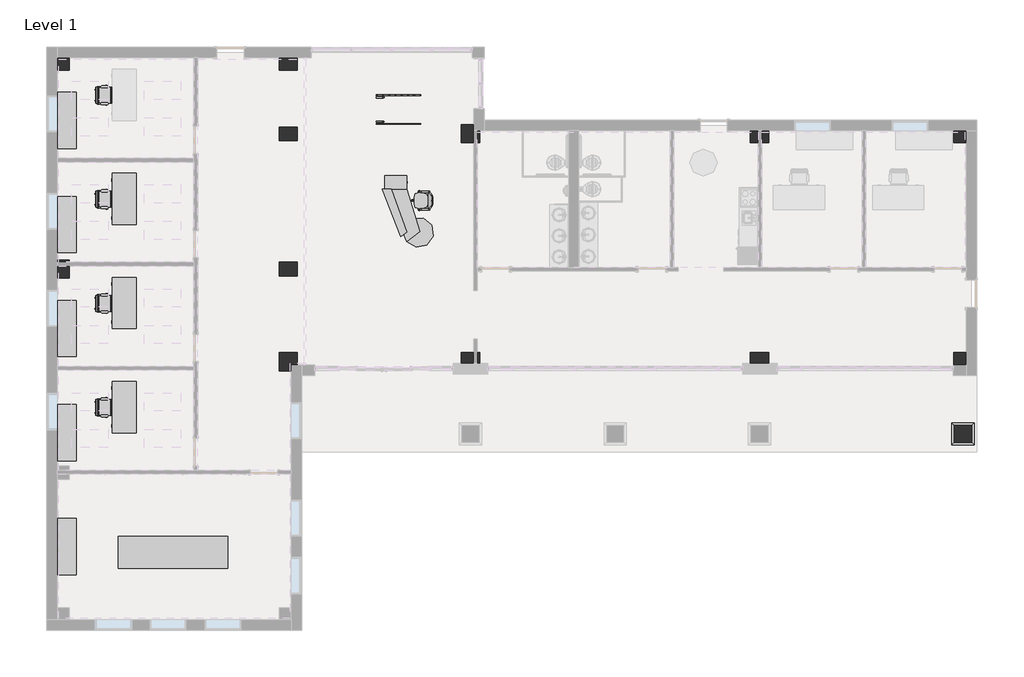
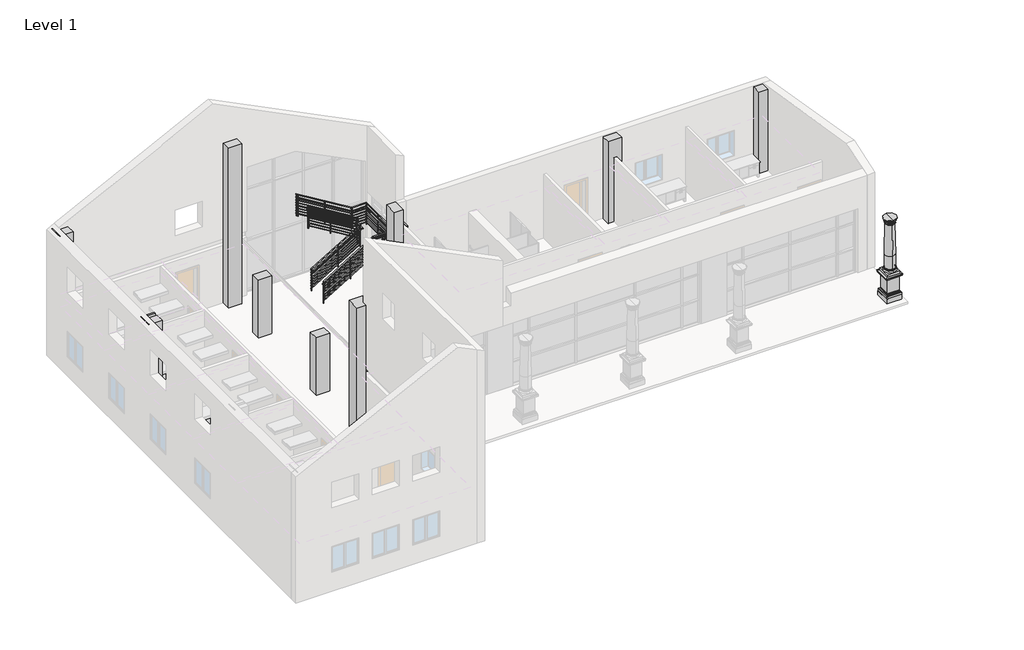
# One storey, part 7 of 8: 15 furniture elements, 13 columns, 2 railings.
"""IFC4 building model written with IfcOpenShell, lengths in millimetres."""

from ifc_helpers import new_model, si_unit, point, frame, origin, origin_with_axes, place, context, project, spatial, polyline, circle_curve, ellipse_curve, trimmed, outline, extrude, faceted_brep, transform, mapped, element, save
from ifc_brep_helpers import plane_surface, cylinder_surface, revolved_surface, advanced_brep
from components import chair_executive_chair_executive_8d69e98c, chair_task_arms_chair_task_arms_8395c10b, conference_table_complete_42_x_144_00e9c4b6, furniture_5a5a5c8e, desk_reception_desk_reception_8679d896, furniture_9d33da18, guardrail_pipe_6950e72b, guardrail_pipe_1aecc964

model = new_model("IFC4")

# Units and contexts
model_context = context("Model", 3, world=origin())
ifc_project = project(units=[si_unit("LENGTHUNIT", "METRE", prefix="MILLI")], contexts=[model_context])

# Site, building, storey
site = spatial("IfcSite", under=ifc_project)
building = spatial("IfcBuilding", under=site)
storey = spatial("IfcBuildingStorey", under=building, Name="Level 1", Elevation=0.0)

# Columns
placement = place(None, origin())
element("IfcColumn", 1, ObjectType="Doric Column : 16'  Height (10 2/3 x Dia.)", at=placement, inside=storey, context=model_context, shape_type="SolidModel", body=[
    extrude(outline(polyline([(16988.3733448, -1720.0769576), (16988.3733448, -2297.9269576), (16410.5233448, -2297.9269576), (16410.5233448, -1720.0769576), (16988.3733448, -1720.0769576)])), frame((0.0, 0.0, 1117.6), z_axis=(0.0, 0.0, 1.0), x_axis=(1.0, 0.0, 0.0)), (0.0, 0.0, 1.0), 107.95),
    faceted_brep([(16470.8483448, -2237.6019576, 1117.6), (16327.9733448, -2380.4769576, 1117.6), (17070.9233448, -2380.4769576, 1117.6), (16928.0483448, -2237.6019576, 1117.6), (16470.8483448, -2237.6019576, 1003.3), (16928.0483448, -2237.6019576, 1003.3), (16399.5654277, -2308.8848746, 1003.3), (16999.3312619, -2308.8848746, 1003.3), (16366.0733448, -2342.3769576, 1028.7), (17032.8233448, -2342.3769576, 1028.7), (16340.6733448, -2367.7769576, 1028.7), (17058.2233448, -2367.7769576, 1028.7), (16340.6733448, -2367.7769576, 1092.2), (17058.2233448, -2367.7769576, 1092.2), (16327.9733448, -2380.4769576, 1092.2), (17070.9233448, -2380.4769576, 1092.2), (17070.9233448, -1637.5269576, 1117.6), (16928.0483448, -1780.4019576, 1117.6), (16928.0483448, -1780.4019576, 1003.3), (16999.3312619, -1709.1190405, 1003.3), (17032.8233448, -1675.6269576, 1028.7), (17058.2233448, -1650.2269576, 1028.7), (17058.2233448, -1650.2269576, 1092.2), (17070.9233448, -1637.5269576, 1092.2), (16327.9733448, -1637.5269576, 1117.6), (16470.8483448, -1780.4019576, 1117.6), (16470.8483448, -1780.4019576, 1003.3), (16399.5654277, -1709.1190405, 1003.3), (16366.0733448, -1675.6269576, 1028.7), (16340.6733448, -1650.2269576, 1028.7), (16340.6733448, -1650.2269576, 1092.2), (16327.9733448, -1637.5269576, 1092.2)], [[[0, 1, 2, 3]], [[4, 0, 3, 5]], [[6, 4, 5, 7]], [[8, 6, 7, 9]], [[10, 8, 9, 11]], [[12, 10, 11, 13]], [[14, 12, 13, 15]], [[1, 14, 15, 2]], [[3, 2, 16, 17]], [[5, 3, 17, 18]], [[7, 5, 18, 19]], [[9, 7, 19, 20]], [[11, 9, 20, 21]], [[13, 11, 21, 22]], [[15, 13, 22, 23]], [[2, 15, 23, 16]], [[17, 16, 24, 25]], [[18, 17, 25, 26]], [[19, 18, 26, 27]], [[20, 19, 27, 28]], [[21, 20, 28, 29]], [[22, 21, 29, 30]], [[23, 22, 30, 31]], [[16, 23, 31, 24]], [[25, 24, 1, 0]], [[26, 25, 0, 4]], [[27, 26, 4, 6]], [[28, 27, 6, 8]], [[29, 28, 8, 10]], [[30, 29, 10, 12]], [[31, 30, 12, 14]], [[24, 31, 14, 1]]]),
    advanced_brep(
    [(16699.4483448, -2256.6519576, 1358.9), (16699.4483448, -1761.3519576, 1358.9), (16699.4483448, -1780.4019576, 1377.95), (16699.4483448, -2237.6019576, 1377.95), (16699.4483448, -1780.4019576, 1989.5041667), (16699.4483448, -2237.6019576, 1989.5041667), (16699.4483448, -2256.6519576, 1339.85), (16699.4483448, -1761.3519576, 1339.85), (16699.4483448, -2256.6519576, 1308.1), (16699.4483448, -1761.3519576, 1308.1), (16699.4483448, -2256.6519576, 1225.55), (16699.4483448, -1761.3519576, 1225.55), (16699.4483448, -2009.0019576, 1225.55), (16699.4483448, -1808.9769576, 3479.3125), (16699.4483448, -2209.0269576, 3479.3125), (16699.4483448, -2301.1019576, 3714.2625601), (16699.4483448, -1716.9019576, 3714.2625601), (16699.4483448, -1716.9019576, 3733.3125), (16699.4483448, -2301.1019576, 3733.3125), (16699.4483448, -2009.0019576, 3733.3125), (16699.4483448, -2282.0518974, 3695.2125), (16699.4483448, -1735.9520177, 3695.2125), (16699.4483448, -2278.8769576, 3695.2125), (16699.4483448, -1739.1269576, 3695.2125), (16699.4483448, -2278.8769576, 3644.4125), (16699.4483448, -1739.1269576, 3644.4125), (16699.4483448, -2272.5269576, 3644.4125), (16699.4483448, -1745.4769576, 3644.4125), (16699.4483448, -2228.0769576, 3599.9625), (16699.4483448, -1789.9269576, 3599.9625), (16699.4483448, -2228.0769576, 3580.9125), (16699.4483448, -1789.9269576, 3580.9125), (16699.4483448, -2209.0269576, 3580.9125), (16699.4483448, -1808.9769576, 3580.9125), (16699.4483448, -2209.0269576, 3498.3625), (16699.4483448, -1808.9769576, 3498.3625), (16699.4483448, -2228.0769576, 3498.3625), (16699.4483448, -1789.9269576, 3498.3625), (16699.4483448, -2228.0769576, 3479.3125), (16699.4483448, -1789.9269576, 3479.3125)],
    [
        (0, 1, circle_curve(frame((16699.4483448, -2009.0019576, 1358.9), z_axis=(0.0, 0.0, 1.0), x_axis=(0.0, 1.0, 0.0)), 247.65)),
        (1, 2, circle_curve(frame((16699.4483448, -1761.3519576, 1377.95), z_axis=(-1.0, 0.0, 0.0), x_axis=(0.0, -1.0, 0.0)), 19.05)),
        (2, 3, circle_curve(frame((16699.4483448, -2009.0019576, 1377.95), z_axis=(0.0, 0.0, -1.0), x_axis=(0.0, 1.0, 0.0)), 228.6)),
        (3, 0, circle_curve(frame((16699.4483448, -2256.6519576, 1377.95), z_axis=(-1.0, 0.0, 0.0), x_axis=(0.0, 1.0, 0.0)), 19.05)),
        (2, 4),
        (4, 5, circle_curve(frame((16699.4483448, -2009.0019576, 1989.5041667), z_axis=(0.0, 0.0, -1.0), x_axis=(0.0, 1.0, 0.0)), 228.6)),
        (5, 3),
        (2, 3, circle_curve(frame((16699.4483448, -2009.0019576, 1377.95), z_axis=(0.0, 0.0, 1.0), x_axis=(0.0, 1.0, 0.0)), 228.6)),
        (5, 4, circle_curve(frame((16699.4483448, -2009.0019576, 1989.5041667), z_axis=(0.0, 0.0, -1.0), x_axis=(0.0, 1.0, 0.0)), 228.6)),
        (1, 0, circle_curve(frame((16699.4483448, -2009.0019576, 1358.9), z_axis=(0.0, 0.0, 1.0), x_axis=(0.0, 1.0, 0.0)), 247.65)),
        (6, 7, circle_curve(frame((16699.4483448, -2009.0019576, 1339.85), z_axis=(0.0, 0.0, 1.0), x_axis=(0.0, 1.0, 0.0)), 247.65)),
        (7, 1),
        (0, 6),
        (7, 6, circle_curve(frame((16699.4483448, -2009.0019576, 1339.85), z_axis=(0.0, 0.0, 1.0), x_axis=(0.0, 1.0, 0.0)), 247.65)),
        (8, 9, circle_curve(frame((16699.4483448, -2009.0019576, 1308.1), z_axis=(0.0, 0.0, 1.0), x_axis=(0.0, 1.0, 0.0)), 247.65)),
        (9, 7, circle_curve(frame((16699.4483448, -1761.3519576, 1323.975), z_axis=(1.0, 0.0, 0.0), x_axis=(0.0, -1.0, 0.0)), 15.875)),
        (6, 8, circle_curve(frame((16699.4483448, -2256.6519576, 1323.975), z_axis=(1.0, 0.0, 0.0), x_axis=(0.0, 1.0, 0.0)), 15.875)),
        (9, 8, circle_curve(frame((16699.4483448, -2009.0019576, 1308.1), z_axis=(0.0, 0.0, 1.0), x_axis=(0.0, 1.0, 0.0)), 247.65)),
        (10, 11, circle_curve(frame((16699.4483448, -2009.0019576, 1225.55), z_axis=(0.0, 0.0, 1.0), x_axis=(0.0, 1.0, 0.0)), 247.65)),
        (11, 9, circle_curve(frame((16699.4483448, -1761.3519576, 1266.825), z_axis=(1.0, 0.0, 0.0), x_axis=(0.0, -1.0, 0.0)), 41.275)),
        (8, 10, circle_curve(frame((16699.4483448, -2256.6519576, 1266.825), z_axis=(1.0, 0.0, 0.0), x_axis=(0.0, 1.0, 0.0)), 41.275)),
        (11, 10, circle_curve(frame((16699.4483448, -2009.0019576, 1225.55), z_axis=(0.0, 0.0, 1.0), x_axis=(0.0, 1.0, 0.0)), 247.65)),
        (12, 11),
        (10, 12),
        (4, 13),
        (13, 14, circle_curve(frame((16699.4483448, -2009.0019576, 3479.3125), z_axis=(0.0, 0.0, -1.0), x_axis=(0.0, 1.0, 0.0)), 200.025)),
        (14, 5),
        (14, 13, circle_curve(frame((16699.4483448, -2009.0019576, 3479.3125), z_axis=(0.0, 0.0, -1.0), x_axis=(0.0, 1.0, 0.0)), 200.025)),
        (15, 16, circle_curve(frame((16699.4483448, -2009.0019576, 3714.2625601), z_axis=(0.0, 0.0, 1.0), x_axis=(0.0, 1.0, 0.0)), 292.1)),
        (16, 17),
        (17, 18, circle_curve(frame((16699.4483448, -2009.0019576, 3733.3125), z_axis=(0.0, 0.0, -1.0), x_axis=(0.0, 1.0, 0.0)), 292.1)),
        (18, 15),
        (17, 19),
        (19, 18),
        (17, 18, circle_curve(frame((16699.4483448, -2009.0019576, 3733.3125), z_axis=(0.0, 0.0, 1.0), x_axis=(0.0, 1.0, 0.0)), 292.1)),
        (16, 15, circle_curve(frame((16699.4483448, -2009.0019576, 3714.2625601), z_axis=(0.0, 0.0, 1.0), x_axis=(0.0, 1.0, 0.0)), 292.1)),
        (20, 21, circle_curve(frame((16699.4483448, -2009.0019576, 3695.2125), z_axis=(0.0, 0.0, 1.0), x_axis=(0.0, 1.0, 0.0)), 273.0499399)),
        (21, 16, circle_curve(frame((16699.4483448, -1716.9019576, 3695.2125), z_axis=(-1.0, 0.0, 0.0), x_axis=(0.0, -1.0, 0.0)), 19.0500601)),
        (15, 20, circle_curve(frame((16699.4483448, -2301.1019576, 3695.2125), z_axis=(-1.0, 0.0, 0.0), x_axis=(0.0, 1.0, 0.0)), 19.0500601)),
        (21, 20, circle_curve(frame((16699.4483448, -2009.0019576, 3695.2125), z_axis=(0.0, 0.0, 1.0), x_axis=(0.0, 1.0, 0.0)), 273.0499399)),
        (22, 23, circle_curve(frame((16699.4483448, -2009.0019576, 3695.2125), z_axis=(0.0, 0.0, 1.0), x_axis=(0.0, 1.0, 0.0)), 269.875)),
        (23, 21),
        (20, 22),
        (23, 22, circle_curve(frame((16699.4483448, -2009.0019576, 3695.2125), z_axis=(0.0, 0.0, 1.0), x_axis=(0.0, 1.0, 0.0)), 269.875)),
        (24, 25, circle_curve(frame((16699.4483448, -2009.0019576, 3644.4125), z_axis=(0.0, 0.0, 1.0), x_axis=(0.0, 1.0, 0.0)), 269.875)),
        (25, 23),
        (22, 24),
        (25, 24, circle_curve(frame((16699.4483448, -2009.0019576, 3644.4125), z_axis=(0.0, 0.0, 1.0), x_axis=(0.0, 1.0, 0.0)), 269.875)),
        (26, 27, circle_curve(frame((16699.4483448, -2009.0019576, 3644.4125), z_axis=(0.0, 0.0, 1.0), x_axis=(0.0, 1.0, 0.0)), 263.525)),
        (27, 25),
        (24, 26),
        (27, 26, circle_curve(frame((16699.4483448, -2009.0019576, 3644.4125), z_axis=(0.0, 0.0, 1.0), x_axis=(0.0, 1.0, 0.0)), 263.525)),
        (28, 29, circle_curve(frame((16699.4483448, -2009.0019576, 3599.9625), z_axis=(0.0, 0.0, 1.0), x_axis=(0.0, 1.0, 0.0)), 219.075)),
        (29, 27, circle_curve(frame((16699.4483448, -1789.9269576, 3644.4125), z_axis=(1.0, 0.0, 0.0), x_axis=(0.0, -1.0, 0.0)), 44.45)),
        (26, 28, circle_curve(frame((16699.4483448, -2228.0769576, 3644.4125), z_axis=(1.0, 0.0, 0.0), x_axis=(0.0, 1.0, 0.0)), 44.45)),
        (29, 28, circle_curve(frame((16699.4483448, -2009.0019576, 3599.9625), z_axis=(0.0, 0.0, 1.0), x_axis=(0.0, 1.0, 0.0)), 219.075)),
        (30, 31, circle_curve(frame((16699.4483448, -2009.0019576, 3580.9125), z_axis=(0.0, 0.0, 1.0), x_axis=(0.0, 1.0, 0.0)), 219.075)),
        (31, 29, circle_curve(frame((16699.4483448, -1789.9269576, 3590.4375), z_axis=(1.0, 0.0, 0.0), x_axis=(0.0, -1.0, 0.0)), 9.525)),
        (28, 30, circle_curve(frame((16699.4483448, -2228.0769576, 3590.4375), z_axis=(1.0, 0.0, 0.0), x_axis=(0.0, 1.0, 0.0)), 9.525)),
        (31, 30, circle_curve(frame((16699.4483448, -2009.0019576, 3580.9125), z_axis=(0.0, 0.0, 1.0), x_axis=(0.0, 1.0, 0.0)), 219.075)),
        (32, 33, circle_curve(frame((16699.4483448, -2009.0019576, 3580.9125), z_axis=(0.0, 0.0, 1.0), x_axis=(0.0, 1.0, 0.0)), 200.025)),
        (33, 31),
        (30, 32),
        (33, 32, circle_curve(frame((16699.4483448, -2009.0019576, 3580.9125), z_axis=(0.0, 0.0, 1.0), x_axis=(0.0, 1.0, 0.0)), 200.025)),
        (34, 35, circle_curve(frame((16699.4483448, -2009.0019576, 3498.3625), z_axis=(0.0, 0.0, 1.0), x_axis=(0.0, 1.0, 0.0)), 200.025)),
        (35, 33),
        (32, 34),
        (35, 34, circle_curve(frame((16699.4483448, -2009.0019576, 3498.3625), z_axis=(0.0, 0.0, 1.0), x_axis=(0.0, 1.0, 0.0)), 200.025)),
        (36, 37, circle_curve(frame((16699.4483448, -2009.0019576, 3498.3625), z_axis=(0.0, 0.0, 1.0), x_axis=(0.0, 1.0, 0.0)), 219.075)),
        (37, 35),
        (34, 36),
        (37, 36, circle_curve(frame((16699.4483448, -2009.0019576, 3498.3625), z_axis=(0.0, 0.0, 1.0), x_axis=(0.0, 1.0, 0.0)), 219.075)),
        (38, 39, circle_curve(frame((16699.4483448, -2009.0019576, 3479.3125), z_axis=(0.0, 0.0, 1.0), x_axis=(0.0, 1.0, 0.0)), 219.075)),
        (39, 37, circle_curve(frame((16699.4483448, -1789.9269576, 3488.8375), z_axis=(1.0, 0.0, 0.0), x_axis=(0.0, -1.0, 0.0)), 9.525)),
        (36, 38, circle_curve(frame((16699.4483448, -2228.0769576, 3488.8375), z_axis=(1.0, 0.0, 0.0), x_axis=(0.0, 1.0, 0.0)), 9.525)),
        (39, 38, circle_curve(frame((16699.4483448, -2009.0019576, 3479.3125), z_axis=(0.0, 0.0, 1.0), x_axis=(0.0, 1.0, 0.0)), 219.075)),
        (13, 39),
        (38, 14),
    ],
    [
        revolved_surface(trimmed(ellipse_curve(frame((16699.4483448, -1761.3519576, 1377.95), z_axis=(1.0, 0.0, 0.0), x_axis=(0.0, -1.0, 0.0)), 19.05, 19.05), [point((16699.4483448, -1780.4019576, 1377.95))], [point((16699.4483448, -1761.3519576, 1358.9))], True, "CARTESIAN"), (16699.4483448, -2009.0019576, 3733.3125), (0.0, 0.0, -1.0)),
        cylinder_surface(frame((16699.4483448, -2009.0019576, 3733.3125), z_axis=(0.0, 0.0, -1.0), x_axis=(0.0, 1.0, 0.0)), 228.6),
        cylinder_surface(frame((16699.4483448, -2009.0019576, 3733.3125), z_axis=(0.0, 0.0, -1.0), x_axis=(0.0, 1.0, 0.0)), 247.65),
        revolved_surface(trimmed(ellipse_curve(frame((16699.4483448, -1761.3519576, 1323.975), z_axis=(-1.0, 0.0, 0.0), x_axis=(0.0, -1.0, 0.0)), 15.875, 15.875), [point((16699.4483448, -1761.3519576, 1339.85))], [point((16699.4483448, -1761.3519576, 1308.1))], True, "CARTESIAN"), (16699.4483448, -2009.0019576, 3733.3125), (0.0, 0.0, -1.0)),
        revolved_surface(trimmed(ellipse_curve(frame((16699.4483448, -1761.3519576, 1266.825), z_axis=(-1.0, 0.0, 0.0), x_axis=(0.0, -1.0, 0.0)), 41.275, 41.275), [point((16699.4483448, -1761.3519576, 1308.1))], [point((16699.4483448, -1761.3519576, 1225.55))], True, "CARTESIAN"), (16699.4483448, -2009.0019576, 3733.3125), (0.0, 0.0, -1.0)),
        plane_surface(frame((16699.4483448, -2009.0019576, 1225.55), z_axis=(0.0, 0.0, -1.0), x_axis=(0.0, 1.0, 0.0))),
        revolved_surface(polyline([(16699.4483448, -1808.9769576, 3479.3125), (16699.4483448, -1780.4019576, 1989.5041667)]), (16699.4483448, -2009.0019576, 3733.3125), (0.0, 0.0, -1.0)),
        cylinder_surface(frame((16699.4483448, -2009.0019576, 3733.3125), z_axis=(0.0, 0.0, -1.0), x_axis=(0.0, 1.0, 0.0)), 292.1),
        plane_surface(frame((16699.4483448, -2009.0019576, 3733.3125), z_axis=(0.0, 0.0, 1.0), x_axis=(0.0, 1.0, 0.0))),
        revolved_surface(trimmed(ellipse_curve(frame((16699.4483448, -1716.9019576, 3695.2125), z_axis=(1.0, 0.0, 0.0), x_axis=(0.0, -1.0, 0.0)), 19.0500601, 19.0500601), [point((16699.4483448, -1716.9019576, 3714.2625601))], [point((16699.4483448, -1735.9520177, 3695.2125))], True, "CARTESIAN"), (16699.4483448, -2009.0019576, 3733.3125), (0.0, 0.0, -1.0)),
        plane_surface(frame((16699.4483448, -2009.0019576, 3695.2125), z_axis=(0.0, 0.0, -1.0), x_axis=(0.0, 1.0, 0.0))),
        cylinder_surface(frame((16699.4483448, -2009.0019576, 3733.3125), z_axis=(0.0, 0.0, -1.0), x_axis=(0.0, 1.0, 0.0)), 269.875),
        plane_surface(frame((16699.4483448, -2009.0019576, 3644.4125), z_axis=(0.0, 0.0, -1.0), x_axis=(0.0, 1.0, 0.0))),
        revolved_surface(trimmed(ellipse_curve(frame((16699.4483448, -1789.9269576, 3644.4125), z_axis=(-1.0, 0.0, 0.0), x_axis=(0.0, -1.0, 0.0)), 44.45, 44.45), [point((16699.4483448, -1745.4769576, 3644.4125))], [point((16699.4483448, -1789.9269576, 3599.9625))], True, "CARTESIAN"), (16699.4483448, -2009.0019576, 3733.3125), (0.0, 0.0, -1.0)),
        revolved_surface(trimmed(ellipse_curve(frame((16699.4483448, -1789.9269576, 3590.4375), z_axis=(-1.0, 0.0, 0.0), x_axis=(0.0, -1.0, 0.0)), 9.525, 9.525), [point((16699.4483448, -1789.9269576, 3599.9625))], [point((16699.4483448, -1789.9269576, 3580.9125))], True, "CARTESIAN"), (16699.4483448, -2009.0019576, 3733.3125), (0.0, 0.0, -1.0)),
        plane_surface(frame((16699.4483448, -2009.0019576, 3580.9125), z_axis=(0.0, 0.0, -1.0), x_axis=(0.0, 1.0, 0.0))),
        cylinder_surface(frame((16699.4483448, -2009.0019576, 3733.3125), z_axis=(0.0, 0.0, -1.0), x_axis=(0.0, 1.0, 0.0)), 200.025),
        plane_surface(frame((16699.4483448, -2009.0019576, 3498.3625), z_axis=(0.0, 0.0, 1.0), x_axis=(0.0, 1.0, 0.0))),
        revolved_surface(trimmed(ellipse_curve(frame((16699.4483448, -1789.9269576, 3488.8375), z_axis=(-1.0, 0.0, 0.0), x_axis=(0.0, -1.0, 0.0)), 9.525, 9.525), [point((16699.4483448, -1789.9269576, 3498.3625))], [point((16699.4483448, -1789.9269576, 3479.3125))], True, "CARTESIAN"), (16699.4483448, -2009.0019576, 3733.3125), (0.0, 0.0, -1.0)),
        plane_surface(frame((16699.4483448, -2009.0019576, 3479.3125), z_axis=(0.0, 0.0, -1.0), x_axis=(0.0, 1.0, 0.0))),
    ],
    [
        (0, [[1, 2, 3, 4]]),
        (1, [[-3, 5, 6, 7]]),
        (1, [[8, -7, 9, -5]]),
        (0, [[10, -4, -8, -2]]),
        (2, [[11, 12, -1, 13]]),
        (2, [[14, -13, -10, -12]]),
        (3, [[15, 16, -11, 17]]),
        (3, [[18, -17, -14, -16]]),
        (4, [[19, 20, -15, 21]]),
        (4, [[22, -21, -18, -20]]),
        (5, [[23, -19, 24]]),
        (5, [[-24, -22, -23]]),
        (6, [[-6, 25, 26, 27]]),
        (6, [[-9, -27, 28, -25]]),
        (7, [[29, 30, 31, 32]]),
        (8, [[-31, 33, 34]]),
        (8, [[35, -34, -33]]),
        (7, [[36, -32, -35, -30]]),
        (9, [[37, 38, -29, 39]]),
        (9, [[40, -39, -36, -38]]),
        (10, [[41, 42, -37, 43]]),
        (10, [[44, -43, -40, -42]]),
        (11, [[45, 46, -41, 47]]),
        (11, [[48, -47, -44, -46]]),
        (12, [[49, 50, -45, 51]]),
        (12, [[52, -51, -48, -50]]),
        (13, [[53, 54, -49, 55]]),
        (13, [[56, -55, -52, -54]]),
        (14, [[57, 58, -53, 59]]),
        (14, [[60, -59, -56, -58]]),
        (15, [[61, 62, -57, 63]]),
        (15, [[64, -63, -60, -62]]),
        (16, [[65, 66, -61, 67]]),
        (16, [[68, -67, -64, -66]]),
        (17, [[69, 70, -65, 71]]),
        (17, [[72, -71, -68, -70]]),
        (18, [[73, 74, -69, 75]]),
        (18, [[76, -75, -72, -74]]),
        (19, [[-26, 77, -73, 78]]),
        (19, [[-28, -78, -76, -77]]),
    ],
),
    advanced_brep(
    [(17044.8934911, -1663.5568112, -101.6), (17044.8934911, -1663.5568112, 127.0), (17044.8934911, -2354.4471039, 127.0), (17044.8934911, -2354.4471039, -101.6), (16928.0483448, -1780.4019576, -101.6), (16928.0483448, -2237.6019576, -101.6), (16928.0483448, -1780.4019576, 317.5), (16928.0483448, -2237.6019576, 317.5), (16962.3434911, -1746.1068112, 317.5), (16962.3434911, -2271.8971039, 317.5), (16981.3934911, -1727.0568112, 298.45), (16981.3934911, -2290.9471039, 298.45), (16981.3934911, -1727.0568112, 279.4), (16981.3934911, -2290.9471039, 279.4), (17003.6184911, -1704.8318112, 257.175), (17003.6184911, -2313.1721039, 257.175), (17025.8434911, -1682.6068112, 234.95), (17025.8434911, -2335.3971039, 234.95), (17025.8434911, -1682.6068112, 215.9), (17025.8434911, -2335.3971039, 215.9), (17035.3684911, -1673.0818112, 215.9), (17035.3684911, -2344.9221039, 215.9), (17035.3684911, -1673.0818112, 127.0), (17035.3684911, -2344.9221039, 127.0), (16354.0031985, -2354.4471039, 127.0), (16354.0031985, -2354.4471039, -101.6), (16470.8483448, -2237.6019576, -101.6), (16470.8483448, -2237.6019576, 317.5), (16436.5531985, -2271.8971039, 317.5), (16417.5031985, -2290.9471039, 298.45), (16417.5031985, -2290.9471039, 279.4), (16395.2781985, -2313.1721039, 257.175), (16373.0531985, -2335.3971039, 234.95), (16373.0531985, -2335.3971039, 215.9), (16363.5281985, -2344.9221039, 215.9), (16363.5281985, -2344.9221039, 127.0), (16354.0031985, -1663.5568112, 127.0), (16354.0031985, -1663.5568112, -101.6), (16470.8483448, -1780.4019576, -101.6), (16470.8483448, -1780.4019576, 317.5), (16436.5531985, -1746.1068112, 317.5), (16417.5031985, -1727.0568112, 298.45), (16417.5031985, -1727.0568112, 279.4), (16395.2781985, -1704.8318112, 257.175), (16373.0531985, -1682.6068112, 234.95), (16373.0531985, -1682.6068112, 215.9), (16363.5281985, -1673.0818112, 215.9), (16363.5281985, -1673.0818112, 127.0)],
    [
        (0, 1),
        (1, 2),
        (2, 3),
        (3, 0),
        (4, 0),
        (3, 5),
        (5, 4),
        (6, 4),
        (5, 7),
        (7, 6),
        (8, 6),
        (7, 9),
        (9, 8),
        (10, 8, ellipse_curve(frame((16981.3934911, -1727.0568112, 317.5), z_axis=(-0.7071067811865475, 0.7071067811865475, 0.0), x_axis=(-0.7071067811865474, -0.7071067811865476, 0.0)), 26.9407684, 19.05)),
        (9, 11, ellipse_curve(frame((16981.3934911, -2290.9471039, 317.5), z_axis=(-0.7071067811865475, -0.7071067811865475, 0.0), x_axis=(0.7071067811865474, -0.7071067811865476, 0.0)), 26.9407684, 19.05)),
        (11, 10),
        (12, 10),
        (11, 13),
        (13, 12),
        (14, 12, ellipse_curve(frame((16981.3934911, -1727.0568112, 257.175), z_axis=(0.7071067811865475, -0.7071067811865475, 0.0), x_axis=(0.7071067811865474, 0.7071067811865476, 0.0)), 31.4308964, 22.225)),
        (13, 15, ellipse_curve(frame((16981.3934911, -2290.9471039, 257.175), z_axis=(0.7071067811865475, 0.7071067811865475, 0.0), x_axis=(-0.7071067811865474, 0.7071067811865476, 0.0)), 31.4308964, 22.225)),
        (15, 14),
        (16, 14, ellipse_curve(frame((17025.8434911, -1682.6068112, 257.175), z_axis=(-0.7071067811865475, 0.7071067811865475, 0.0), x_axis=(-0.7071067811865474, -0.7071067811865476, 0.0)), 31.4308964, 22.225)),
        (15, 17, ellipse_curve(frame((17025.8434911, -2335.3971039, 257.175), z_axis=(-0.7071067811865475, -0.7071067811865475, 0.0), x_axis=(0.7071067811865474, -0.7071067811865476, 0.0)), 31.4308964, 22.225)),
        (17, 16),
        (18, 16),
        (17, 19),
        (19, 18),
        (20, 18),
        (19, 21),
        (21, 20),
        (22, 20),
        (21, 23),
        (23, 22),
        (1, 22),
        (23, 2),
        (2, 24),
        (24, 25),
        (25, 3),
        (25, 26),
        (26, 5),
        (26, 27),
        (27, 7),
        (27, 28),
        (28, 9),
        (28, 29, ellipse_curve(frame((16417.5031985, -2290.9471039, 317.5), z_axis=(-0.7071067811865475, 0.7071067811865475, 0.0), x_axis=(-0.7071067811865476, -0.7071067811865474, 0.0)), 26.9407684, 19.05)),
        (29, 11),
        (29, 30),
        (30, 13),
        (30, 31, ellipse_curve(frame((16417.5031985, -2290.9471039, 257.175), z_axis=(0.7071067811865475, -0.7071067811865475, 0.0), x_axis=(0.7071067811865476, 0.7071067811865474, 0.0)), 31.4308964, 22.225)),
        (31, 15),
        (31, 32, ellipse_curve(frame((16373.0531985, -2335.3971039, 257.175), z_axis=(-0.7071067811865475, 0.7071067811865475, 0.0), x_axis=(-0.7071067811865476, -0.7071067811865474, 0.0)), 31.4308964, 22.225)),
        (32, 17),
        (32, 33),
        (33, 19),
        (33, 34),
        (34, 21),
        (34, 35),
        (35, 23),
        (35, 24),
        (24, 36),
        (36, 37),
        (37, 25),
        (37, 38),
        (38, 26),
        (38, 39),
        (39, 27),
        (39, 40),
        (40, 28),
        (40, 41, ellipse_curve(frame((16417.5031985, -1727.0568112, 317.5), z_axis=(0.7071067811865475, 0.7071067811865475, 0.0), x_axis=(-0.7071067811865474, 0.7071067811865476, 0.0)), 26.9407684, 19.05)),
        (41, 29),
        (41, 42),
        (42, 30),
        (42, 43, ellipse_curve(frame((16417.5031985, -1727.0568112, 257.175), z_axis=(-0.7071067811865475, -0.7071067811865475, 0.0), x_axis=(0.7071067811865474, -0.7071067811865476, 0.0)), 31.4308964, 22.225)),
        (43, 31),
        (43, 44, ellipse_curve(frame((16373.0531985, -1682.6068112, 257.175), z_axis=(0.7071067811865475, 0.7071067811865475, 0.0), x_axis=(-0.7071067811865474, 0.7071067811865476, 0.0)), 31.4308964, 22.225)),
        (44, 32),
        (44, 45),
        (45, 33),
        (45, 46),
        (46, 34),
        (46, 47),
        (47, 35),
        (47, 36),
        (36, 1),
        (0, 37),
        (4, 38),
        (6, 39),
        (8, 40),
        (10, 41),
        (12, 42),
        (14, 43),
        (16, 44),
        (18, 45),
        (20, 46),
        (22, 47),
    ],
    [
        plane_surface(frame((17044.8934911, -1663.5568112, 127.0), z_axis=(1.0, 0.0, 0.0), x_axis=(0.0, -1.0, 0.0))),
        plane_surface(frame((17044.8934911, -1663.5568112, -101.6), z_axis=(0.0, 0.0, -1.0), x_axis=(0.0, -1.0, 0.0))),
        plane_surface(frame((16928.0483448, -1780.4019576, -101.6), z_axis=(-1.0, 0.0, 0.0), x_axis=(0.0, -1.0, 0.0))),
        plane_surface(frame((16928.0483448, -1780.4019576, 317.5), z_axis=(0.0, 0.0, 1.0), x_axis=(0.0, -1.0, 0.0))),
        revolved_surface(polyline([(17000.4434911, -2309.9971039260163, 317.5), (17000.4434911, -1708.0068111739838, 317.5)]), (16981.3934911, -1650.5418844, 317.5), (0.0, -1.0, 0.0)),
        plane_surface(frame((16981.3934911, -1727.0568112, 298.45), z_axis=(1.0, 0.0, 0.0), x_axis=(0.0, -1.0, 0.0))),
        cylinder_surface(frame((16981.3934911, -1650.5418844, 257.175), z_axis=(0.0, 1.0, 0.0), x_axis=(1.0, 0.0, 0.0)), 22.225),
        revolved_surface(polyline([(17048.0684911, -2357.622103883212, 257.175), (17048.0684911, -1660.3818112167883, 257.175)]), (17025.8434911, -1650.5418844, 257.175), (0.0, -1.0, 0.0)),
        plane_surface(frame((17025.8434911, -1682.6068112, 234.95), z_axis=(1.0, 0.0, 0.0), x_axis=(0.0, -1.0, 0.0))),
        plane_surface(frame((17025.8434911, -1682.6068112, 215.9), z_axis=(0.0, 0.0, 1.0), x_axis=(0.0, -1.0, 0.0))),
        plane_surface(frame((17035.3684911, -1673.0818112, 215.9), z_axis=(1.0, 0.0, 0.0), x_axis=(0.0, -1.0, 0.0))),
        plane_surface(frame((17035.3684911, -1673.0818112, 127.0), z_axis=(0.0, 0.0, 1.0), x_axis=(0.0, -1.0, 0.0))),
        plane_surface(frame((17044.8934911, -2354.4471039, 127.0), z_axis=(0.0, -1.0, 0.0), x_axis=(-1.0, 0.0, 0.0))),
        plane_surface(frame((17044.8934911, -2354.4471039, -101.6), z_axis=(0.0, 0.0, -1.0), x_axis=(-1.0, 0.0, 0.0))),
        plane_surface(frame((16928.0483448, -2237.6019576, -101.6), z_axis=(0.0, 1.0, 0.0), x_axis=(-1.0, 0.0, 0.0))),
        plane_surface(frame((16928.0483448, -2237.6019576, 317.5), z_axis=(0.0, 0.0, 1.0), x_axis=(-1.0, 0.0, 0.0))),
        revolved_surface(polyline([(16398.45319847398, -2309.9971039, 317.5), (17000.443491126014, -2309.9971039, 317.5)]), (17057.908418, -2290.9471039, 317.5), (-1.0, 0.0, 0.0)),
        plane_surface(frame((16981.3934911, -2290.9471039, 298.45), z_axis=(0.0, -1.0, 0.0), x_axis=(-1.0, 0.0, 0.0))),
        cylinder_surface(frame((17057.908418, -2290.9471039, 257.175), z_axis=(1.0, 0.0, 0.0), x_axis=(0.0, -1.0, 0.0)), 22.225),
        revolved_surface(polyline([(16350.828198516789, -2357.6221038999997, 257.175), (17048.068491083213, -2357.6221038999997, 257.175)]), (17057.908418, -2335.3971039, 257.175), (-1.0, 0.0, 0.0)),
        plane_surface(frame((17025.8434911, -2335.3971039, 234.95), z_axis=(0.0, -1.0, 0.0), x_axis=(-1.0, 0.0, 0.0))),
        plane_surface(frame((17025.8434911, -2335.3971039, 215.9), z_axis=(0.0, 0.0, 1.0), x_axis=(-1.0, 0.0, 0.0))),
        plane_surface(frame((17035.3684911, -2344.9221039, 215.9), z_axis=(0.0, -1.0, 0.0), x_axis=(-1.0, 0.0, 0.0))),
        plane_surface(frame((17035.3684911, -2344.9221039, 127.0), z_axis=(0.0, 0.0, 1.0), x_axis=(-1.0, 0.0, 0.0))),
        plane_surface(frame((16354.0031985, -2354.4471039, 127.0), z_axis=(-1.0, 0.0, 0.0), x_axis=(0.0, 1.0, 0.0))),
        plane_surface(frame((16354.0031985, -2354.4471039, -101.6), z_axis=(0.0, 0.0, -1.0), x_axis=(0.0, 1.0, 0.0))),
        plane_surface(frame((16470.8483448, -2237.6019576, -101.6), z_axis=(1.0, 0.0, 0.0), x_axis=(0.0, 1.0, 0.0))),
        plane_surface(frame((16470.8483448, -2237.6019576, 317.5), z_axis=(0.0, 0.0, 1.0), x_axis=(0.0, 1.0, 0.0))),
        revolved_surface(polyline([(16398.4531985, -1708.0068111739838, 317.5), (16398.4531985, -2309.9971039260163, 317.5)]), (16417.5031985, -2367.4620307, 317.5), (0.0, 1.0, 0.0)),
        plane_surface(frame((16417.5031985, -2290.9471039, 298.45), z_axis=(-1.0, 0.0, 0.0), x_axis=(0.0, 1.0, 0.0))),
        cylinder_surface(frame((16417.5031985, -2367.4620307, 257.175), z_axis=(0.0, -1.0, 0.0), x_axis=(-1.0, 0.0, 0.0)), 22.225),
        revolved_surface(polyline([(16350.8281985, -1660.3818112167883, 257.175), (16350.8281985, -2357.622103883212, 257.175)]), (16373.0531985, -2367.4620307, 257.175), (0.0, 1.0, 0.0)),
        plane_surface(frame((16373.0531985, -2335.3971039, 234.95), z_axis=(-1.0, 0.0, 0.0), x_axis=(0.0, 1.0, 0.0))),
        plane_surface(frame((16373.0531985, -2335.3971039, 215.9), z_axis=(0.0, 0.0, 1.0), x_axis=(0.0, 1.0, 0.0))),
        plane_surface(frame((16363.5281985, -2344.9221039, 215.9), z_axis=(-1.0, 0.0, 0.0), x_axis=(0.0, 1.0, 0.0))),
        plane_surface(frame((16363.5281985, -2344.9221039, 127.0), z_axis=(0.0, 0.0, 1.0), x_axis=(0.0, 1.0, 0.0))),
        plane_surface(frame((16354.0031985, -1663.5568112, 127.0), z_axis=(0.0, 1.0, 0.0), x_axis=(1.0, 0.0, 0.0))),
        plane_surface(frame((16354.0031985, -1663.5568112, -101.6), z_axis=(0.0, 0.0, -1.0), x_axis=(1.0, 0.0, 0.0))),
        plane_surface(frame((16470.8483448, -1780.4019576, -101.6), z_axis=(0.0, -1.0, 0.0), x_axis=(1.0, 0.0, 0.0))),
        plane_surface(frame((16470.8483448, -1780.4019576, 317.5), z_axis=(0.0, 0.0, 1.0), x_axis=(1.0, 0.0, 0.0))),
        revolved_surface(polyline([(17000.443491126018, -1708.0068112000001, 317.5), (16398.453198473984, -1708.0068112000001, 317.5)]), (16340.9882717, -1727.0568112, 317.5), (1.0, 0.0, 0.0)),
        plane_surface(frame((16417.5031985, -1727.0568112, 298.45), z_axis=(0.0, 1.0, 0.0), x_axis=(1.0, 0.0, 0.0))),
        cylinder_surface(frame((16340.9882717, -1727.0568112, 257.175), z_axis=(-1.0, 0.0, 0.0), x_axis=(0.0, 1.0, 0.0)), 22.225),
        revolved_surface(polyline([(17048.068491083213, -1660.3818112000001, 257.175), (16350.828198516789, -1660.3818112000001, 257.175)]), (16340.9882717, -1682.6068112, 257.175), (1.0, 0.0, 0.0)),
        plane_surface(frame((16373.0531985, -1682.6068112, 234.95), z_axis=(0.0, 1.0, 0.0), x_axis=(1.0, 0.0, 0.0))),
        plane_surface(frame((16373.0531985, -1682.6068112, 215.9), z_axis=(0.0, 0.0, 1.0), x_axis=(1.0, 0.0, 0.0))),
        plane_surface(frame((16363.5281985, -1673.0818112, 215.9), z_axis=(0.0, 1.0, 0.0), x_axis=(1.0, 0.0, 0.0))),
        plane_surface(frame((16363.5281985, -1673.0818112, 127.0), z_axis=(0.0, 0.0, 1.0), x_axis=(1.0, 0.0, 0.0))),
    ],
    [
        (0, [[1, 2, 3, 4]]),
        (1, [[5, -4, 6, 7]]),
        (2, [[8, -7, 9, 10]]),
        (3, [[11, -10, 12, 13]]),
        (4, [[14, -13, 15, 16]]),
        (5, [[17, -16, 18, 19]]),
        (6, [[20, -19, 21, 22]]),
        (7, [[23, -22, 24, 25]]),
        (8, [[26, -25, 27, 28]]),
        (9, [[29, -28, 30, 31]]),
        (10, [[32, -31, 33, 34]]),
        (11, [[35, -34, 36, -2]]),
        (12, [[-3, 37, 38, 39]]),
        (13, [[-6, -39, 40, 41]]),
        (14, [[-9, -41, 42, 43]]),
        (15, [[-12, -43, 44, 45]]),
        (16, [[-15, -45, 46, 47]]),
        (17, [[-18, -47, 48, 49]]),
        (18, [[-21, -49, 50, 51]]),
        (19, [[-24, -51, 52, 53]]),
        (20, [[-27, -53, 54, 55]]),
        (21, [[-30, -55, 56, 57]]),
        (22, [[-33, -57, 58, 59]]),
        (23, [[-36, -59, 60, -37]]),
        (24, [[-38, 61, 62, 63]]),
        (25, [[-40, -63, 64, 65]]),
        (26, [[-42, -65, 66, 67]]),
        (27, [[-44, -67, 68, 69]]),
        (28, [[-46, -69, 70, 71]]),
        (29, [[-48, -71, 72, 73]]),
        (30, [[-50, -73, 74, 75]]),
        (31, [[-52, -75, 76, 77]]),
        (32, [[-54, -77, 78, 79]]),
        (33, [[-56, -79, 80, 81]]),
        (34, [[-58, -81, 82, 83]]),
        (35, [[-60, -83, 84, -61]]),
        (36, [[-62, 85, -1, 86]]),
        (37, [[-64, -86, -5, 87]]),
        (38, [[-66, -87, -8, 88]]),
        (39, [[-68, -88, -11, 89]]),
        (40, [[-70, -89, -14, 90]]),
        (41, [[-72, -90, -17, 91]]),
        (42, [[-74, -91, -20, 92]]),
        (43, [[-76, -92, -23, 93]]),
        (44, [[-78, -93, -26, 94]]),
        (45, [[-80, -94, -29, 95]]),
        (46, [[-82, -95, -32, 96]]),
        (47, [[-84, -96, -35, -85]]),
    ],
),
    extrude(outline(polyline([(16962.9733448, -1745.4769576), (16962.9733448, -2272.5269576), (16435.9233448, -2272.5269576), (16435.9233448, -1745.4769576), (16962.9733448, -1745.4769576)])), frame((0.0, 0.0, 317.5), z_axis=(0.0, 0.0, 1.0), x_axis=(1.0, 0.0, 0.0)), (0.0, 0.0, 1.0), 685.8),
])
element("IfcColumn", 2, ObjectType="Rectangular Column : 18\" x 24\"", at=placement, inside=storey, context=model_context, shape_type="Brep", body=[
    faceted_brep([(-5554.1266552, 3732.9855424, 2755.2), (-6163.7266552, 3732.9855424, 2755.2), (-6163.7266552, 3275.7855424, 2755.2), (-5554.1266552, 3275.7855424, 2755.2), (-5554.1266552, 3732.9855424, 0.0), (-5554.1266552, 3275.7855424, 0.0), (-6163.7266552, 3275.7855424, 0.0), (-6163.7266552, 3732.9855424, 0.0), (-5554.1266552, 3732.9855424, 2647.95), (-5554.1266552, 3732.9855424, 2540.0), (-6163.7266552, 3732.9855424, 2540.0), (-6163.7266552, 3732.9855424, 2647.95), (-6163.7266552, 3275.7855424, 2540.0), (-6163.7266552, 3275.7855424, 2647.95), (-5554.1266552, 3275.7855424, 2540.0), (-5554.1266552, 3275.7855424, 2647.95)], [[[0, 1, 2, 3]], [[4, 5, 6, 7]], [[1, 0, 8, 9, 4, 7, 10, 11]], [[2, 1, 11, 10, 7, 6, 12, 13]], [[3, 2, 13, 12, 6, 5, 14, 15]], [[0, 3, 15, 14, 5, 4, 9, 8]]]),
])
element("IfcColumn", 3, ObjectType="Rectangular Column : 18\" x 24\"", at=placement, inside=storey, context=model_context, shape_type="Brep", body=[
    faceted_brep([(-5554.1266552, 8257.3605424, 2755.2), (-6163.7266552, 8257.3605424, 2755.2), (-6163.7266552, 7800.1605424, 2755.2), (-5554.1266552, 7800.1605424, 2755.2), (-5554.1266552, 8257.3605424, 0.0), (-5554.1266552, 7800.1605424, 0.0), (-6163.7266552, 7800.1605424, 0.0), (-6163.7266552, 8257.3605424, 0.0), (-5554.1266552, 8257.3605424, 2647.95), (-5554.1266552, 8257.3605424, 2540.0), (-6163.7266552, 8257.3605424, 2540.0), (-6163.7266552, 8257.3605424, 2647.95), (-6163.7266552, 7800.1605424, 2540.0), (-6163.7266552, 7800.1605424, 2647.95), (-5554.1266552, 7800.1605424, 2540.0), (-5554.1266552, 7800.1605424, 2647.95)], [[[0, 1, 2, 3]], [[4, 5, 6, 7]], [[1, 0, 8, 9, 4, 7, 10, 11]], [[2, 1, 11, 10, 7, 6, 12, 13]], [[3, 2, 13, 12, 6, 5, 14, 15]], [[0, 3, 15, 14, 5, 4, 9, 8]]]),
])
element("IfcColumn", 4, ObjectType="Rectangular Column : 24\" x 24\"", at=placement, inside=storey, context=model_context, shape_type="Brep", body=[
    faceted_brep([(-13583.7016552, 10156.0105424, 6100.0), (-13174.1266552, 10156.0105424, 6100.0), (-13174.1266552, 10568.7605424, 6100.0), (-13583.7016552, 10568.7605424, 6100.0), (-13174.1266552, 10156.0105424, 0.0), (-13583.7016552, 10156.0105424, 0.0), (-13583.7016552, 10568.7605424, 0.0), (-13174.1266552, 10568.7605424, 0.0), (-13583.7016552, 10568.7605424, 3060.0), (-13583.7016552, 10568.7605424, 2755.2)], [[[0, 1, 2, 3]], [[4, 5, 6, 7]], [[1, 4, 7, 2]], [[5, 0, 3, 8, 9, 6]], [[4, 1, 0, 5]], [[3, 2, 7, 6, 9, 8]]]),
    faceted_brep([(-13783.7266552, 10156.0105424, 6100.0), (-13783.7266552, 10765.6105424, 6100.0), (-13783.7266552, 10765.6105424, 6082.5375), (-13783.7266552, 10156.0105424, 6082.5375), (-13748.8016552, 10156.0105424, 6100.0), (-13748.8016552, 10765.6105424, 6100.0)], [[[0, 1, 2, 3]], [[4, 0, 3]], [[5, 4, 3, 2]], [[1, 0, 4, 5]], [[1, 5, 2]]]),
])
element("IfcColumn", 5, ObjectType="Rectangular Column : 24\" x 24\"", at=placement, inside=storey, context=model_context, shape_type="SweptSolid", body=[
    extrude(outline(polyline([(3729.8105424, 6100.0), (3809.1855424, 6100.0), (3809.1855424, 0.0), (3729.8105424, 0.0), (3729.8105424, 2755.2), (3605.9855424, 2755.2), (3605.9855424, 0.0), (3199.5855424, 0.0), (3199.5855424, 6100.0), (3605.9855424, 6100.0), (3605.9855424, 3060.0), (3729.8105424, 3060.0), (3729.8105424, 6100.0)])), frame((-13583.7016552, 0.0, 0.0), z_axis=(1.0, 0.0, 0.0), x_axis=(0.0, 1.0, 0.0)), (0.0, 0.0, 1.0), 409.575),
    extrude(outline(polyline([(6100.0, -13748.8016552), (6100.0, -13783.7266552), (6082.5375, -13783.7266552), (6100.0, -13748.8016552)])), frame((0.0, 3199.5855424, 0.0), z_axis=(0.0, 1.0, 0.0), x_axis=(0.0, 0.0, 1.0)), (0.0, 0.0, 1.0), 609.6),
])
element("IfcColumn", 6, ObjectType="Rectangular Column : 24\" x 24\"", at=placement, inside=storey, context=model_context, shape_type="Brep", body=[
    faceted_brep([(-5554.1266552, 707.2105424, 6100.0), (-6163.7266552, 707.2105424, 6100.0), (-6163.7266552, 97.6105424, 6100.0), (-5754.1516552, 97.6105424, 6100.0), (-5754.1516552, 300.8105424, 6100.0), (-5554.1266552, 300.8105424, 6100.0), (-6163.7266552, 97.6105424, 0.0), (-6163.7266552, 707.2105424, 0.0), (-5554.1266552, 707.2105424, 0.0), (-5554.1266552, 300.8105424, 0.0), (-5754.1516552, 300.8105424, 0.0), (-5754.1516552, 97.6105424, 0.0), (-5754.1516552, 300.8105424, 2755.2), (-5754.1516552, 300.8105424, 3060.0)], [[[0, 1, 2, 3, 4, 5]], [[6, 7, 8, 9, 10, 11]], [[1, 0, 8, 7]], [[2, 1, 7, 6]], [[2, 6, 11, 3]], [[8, 0, 5, 9]], [[10, 12, 13, 4, 3, 11]], [[4, 13, 12, 10, 9, 5]]]),
])
element("IfcColumn", 7, ObjectType="Rectangular Column : 24\" x 24\"", at=placement, inside=storey, context=model_context, shape_type="Brep", body=[
    faceted_brep([(-67.7266552, 8333.5605424, 3900.0), (-67.7266552, 7723.9605424, 3900.0), (341.8483448, 7723.9605424, 3900.0), (341.8483448, 8130.3605424, 3900.0), (341.8483448, 8333.5605424, 3900.0), (-67.7266552, 7723.9605424, 0.0), (-67.7266552, 8333.5605424, 0.0), (341.8483448, 8333.5605424, 0.0), (341.8483448, 8130.3605424, 0.0), (341.8483448, 7723.9605424, 0.0), (341.8483448, 7723.9605424, 3060.0), (341.8483448, 8130.3605424, 3060.0)], [[[0, 1, 2, 3, 4]], [[5, 6, 7, 8, 9]], [[6, 0, 4, 7]], [[1, 0, 6, 5]], [[1, 5, 9, 10, 2]], [[9, 8, 11, 10]], [[3, 2, 10, 11]], [[4, 3, 11, 8, 7]]]),
    faceted_brep([(541.8733448, 7723.9605424, 3060.0), (541.8733448, 7723.9605424, 0.0), (541.8733448, 8130.3605424, 0.0), (541.8733448, 8130.3605424, 3060.0), (465.6733448, 8130.3605424, 0.0), (465.6733448, 7723.9605424, 0.0), (465.6733448, 7723.9605424, 3060.0), (465.6733448, 8130.3605424, 3060.0)], [[[0, 1, 2, 3]], [[4, 5, 6, 7]], [[6, 0, 3, 7]], [[5, 1, 0, 6]], [[1, 5, 4, 2]], [[2, 4, 7, 3]]]),
])
element("IfcColumn", 8, ObjectType="Rectangular Column : 24\" x 24\"", at=placement, inside=storey, context=model_context, shape_type="SweptSolid", body=[
    extrude(outline(polyline([(3900.0, 10197.0483448), (3900.0, 9587.4483448), (0.0, 9587.4483448), (0.0, 9847.7983448), (3060.0, 9847.7983448), (3060.0, 9971.6233448), (0.0, 9971.6233448), (0.0, 10197.0483448), (3900.0, 10197.0483448)])), frame((0.0, 7723.9605424, 0.0), z_axis=(0.0, 1.0, 0.0), x_axis=(0.0, 0.0, 1.0)), (0.0, 0.0, 1.0), 406.4),
])
element("IfcColumn", 9, ObjectType="Rectangular Column : 24\" x 24\"", at=placement, inside=storey, context=model_context, shape_type="SweptSolid", body=[
    extrude(outline(polyline([(16394.6483448, 7723.9605424), (16394.6483448, 8130.3605424), (16801.0483448, 8130.3605424), (16801.0483448, 7723.9605424), (16394.6483448, 7723.9605424)])), origin_with_axes(), (0.0, 0.0, 1.0), 3900.0),
])
element("IfcColumn", 10, ObjectType="Rectangular Column : 24\" x 24\"", at=placement, inside=storey, context=model_context, shape_type="SweptSolid", body=[
    extrude(outline(polyline([(16394.6483448, 707.2105424), (16801.0483448, 707.2105424), (16801.0483448, 300.8105424), (16394.6483448, 300.8105424), (16394.6483448, 707.2105424)])), origin_with_axes(), (0.0, 0.0, 1.0), 3900.0),
])
element("IfcColumn", 11, ObjectType="Rectangular Column : 24\" x 24\"", at=placement, inside=storey, context=model_context, shape_type="SweptSolid", body=[
    extrude(outline(polyline([(707.2105424, 3900.0), (707.2105424, 0.0), (351.6105424, 0.0), (351.6105424, 3060.0), (300.8105424, 3060.0), (300.8105424, 3900.0), (707.2105424, 3900.0)])), frame((9587.4483448, 0.0, 0.0), z_axis=(1.0, 0.0, 0.0), x_axis=(0.0, 1.0, 0.0)), (0.0, 0.0, 1.0), 609.6),
])
element("IfcColumn", 12, ObjectType="Rectangular Column : 24\" x 24\"", at=placement, inside=storey, context=model_context, shape_type="SweptSolid", body=[
    extrude(outline(polyline([(-5554.1266552, 10156.0105424), (-6163.7266552, 10156.0105424), (-6163.7266552, 10568.7605424), (-5554.1266552, 10568.7605424), (-5554.1266552, 10156.0105424)])), origin_with_axes(), (0.0, 0.0, 1.0), 7632.0),
])
element("IfcColumn", 13, ObjectType="Rectangular Column : 24\" x 24\"", at=placement, inside=storey, context=model_context, shape_type="SweptSolid", body=[
    extrude(outline(polyline([(541.8733448, 707.2105424), (541.8733448, 351.6105424), (465.6733448, 351.6105424), (465.6733448, 707.2105424), (541.8733448, 707.2105424)])), origin_with_axes(), (0.0, 0.0, 1.0), 3060.0),
    extrude(outline(polyline([(-67.7266552, 351.6105424), (-67.7266552, 707.2105424), (341.8483448, 707.2105424), (341.8483448, 351.6105424), (-67.7266552, 351.6105424)])), origin_with_axes(), (0.0, 0.0, 1.0), 3060.0),
])

# Furniture
chair_executive_chair_executive_shape = chair_executive_chair_executive_8d69e98c(model_context)
element("IfcFurniture", 14, ObjectType="Chair-Executive : Chair-Executive", at=placement, inside=storey, context=model_context, shape_type="MappedRepresentation", body=[
    mapped(chair_executive_chair_executive_shape, transform((-1369.5807535, 5652.5697228, 0.0), x_axis=(0.0, 1.0, 0.0), y_axis=(-1.0, 0.0, 0.0), z_axis=(0.0, 0.0, 1.0))),
])
chair_task_arms_chair_task_arms_shape = chair_task_arms_chair_task_arms_8395c10b(model_context)
element("IfcFurniture", 15, ObjectType="Chair-Task Arms : Chair-Task Arms", at=placement, inside=storey, context=model_context, shape_type="MappedRepresentation", body=[
    mapped(chair_task_arms_chair_task_arms_shape, transform((-12048.1356286, -1267.3427772, 0.0), x_axis=(0.0, 1.0, 0.0), y_axis=(-1.0, 0.0, 0.0), z_axis=(0.0, 0.0, 1.0))),
])
element("IfcFurniture", 16, ObjectType="Chair-Task Arms : Chair-Task Arms", at=placement, inside=storey, context=model_context, shape_type="MappedRepresentation", body=[
    mapped(chair_task_arms_chair_task_arms_shape, transform((-12048.1356286, 2214.0447228, 0.0), x_axis=(0.0, 1.0, 0.0), y_axis=(-1.0, 0.0, 0.0), z_axis=(0.0, 0.0, 1.0))),
])
element("IfcFurniture", 17, ObjectType="Chair-Task Arms : Chair-Task Arms", at=placement, inside=storey, context=model_context, shape_type="MappedRepresentation", body=[
    mapped(chair_task_arms_chair_task_arms_shape, transform((-12048.1356286, 5695.4322228, 0.0), x_axis=(0.0, 1.0, 0.0), y_axis=(-1.0, 0.0, 0.0), z_axis=(0.0, 0.0, 1.0))),
])
element("IfcFurniture", 18, ObjectType="Chair-Task Arms : Chair-Task Arms", at=placement, inside=storey, context=model_context, shape_type="MappedRepresentation", body=[
    mapped(chair_task_arms_chair_task_arms_shape, transform((-12048.1356286, 9176.8197228, 0.0), x_axis=(0.0, 1.0, 0.0), y_axis=(-1.0, 0.0, 0.0), z_axis=(0.0, 0.0, 1.0))),
])
conference_table_complete_42_x_144_shape = conference_table_complete_42_x_144_00e9c4b6(model_context)
element("IfcFurniture", 19, ObjectType="Conference Table-Complete : 42 x 144", at=placement, inside=storey, context=model_context, shape_type="MappedRepresentation", body=[
    mapped(conference_table_complete_42_x_144_shape, transform((-9715.5836955, -5969.8356111, 0.0), x_axis=(1.0, 0.0, 0.0), y_axis=(0.0, 1.0, 0.0), z_axis=(0.0, 0.0, 1.0))),
])
furniture_shape = furniture_5a5a5c8e(model_context)
element("IfcFurniture", 20, ObjectType="Credenza : 72\" x 24\"", at=placement, inside=storey, context=model_context, shape_type="MappedRepresentation", body=[
    mapped(furniture_shape, transform((-13274.3213273, -1908.6485326, 0.0), x_axis=(0.0, -1.0000000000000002, 0.0), y_axis=(1.0000000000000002, 0.0, 0.0), z_axis=(0.0, 0.0, 1.0))),
])
element("IfcFurniture", 21, ObjectType="Credenza : 72\" x 24\"", at=placement, inside=storey, context=model_context, shape_type="MappedRepresentation", body=[
    mapped(furniture_shape, transform((-13274.3213273, -5718.6485326, 0.0), x_axis=(0.0, -1.0000000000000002, 0.0), y_axis=(1.0000000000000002, 0.0, 0.0), z_axis=(0.0, 0.0, 1.0))),
])
element("IfcFurniture", 22, ObjectType="Credenza : 72\" x 24\"", at=placement, inside=storey, context=model_context, shape_type="MappedRepresentation", body=[
    mapped(furniture_shape, transform((-13274.3213273, 1572.7389674, 0.0), x_axis=(0.0, -1.0, 0.0), y_axis=(1.0, 0.0, 0.0), z_axis=(0.0, 0.0, 1.0))),
])
element("IfcFurniture", 23, ObjectType="Credenza : 72\" x 24\"", at=placement, inside=storey, context=model_context, shape_type="MappedRepresentation", body=[
    mapped(furniture_shape, transform((-13274.3213273, 5054.1264674, 0.0), x_axis=(0.0, -1.0, 0.0), y_axis=(1.0, 0.0, 0.0), z_axis=(0.0, 0.0, 1.0))),
])
element("IfcFurniture", 24, ObjectType="Credenza : 72\" x 24\"", at=placement, inside=storey, context=model_context, shape_type="MappedRepresentation", body=[
    mapped(furniture_shape, transform((-13274.3213273, 8535.5139674, 0.0), x_axis=(0.0, -1.0, 0.0), y_axis=(1.0, 0.0, 0.0), z_axis=(0.0, 0.0, 1.0))),
])
desk_reception_desk_reception_shape = desk_reception_desk_reception_8679d896(model_context)
element("IfcFurniture", 25, ObjectType="Desk-Reception : Desk-Reception", at=placement, inside=storey, context=model_context, shape_type="MappedRepresentation", body=[
    mapped(desk_reception_desk_reception_shape, transform((-1896.5266552, 6172.9730424, 0.0), x_axis=(0.0, 1.0000000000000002, 0.0), y_axis=(-1.0000000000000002, 0.0, 0.0), z_axis=(0.0, 0.0, 1.0))),
])
furniture_2_shape = furniture_9d33da18(model_context)
element("IfcFurniture", 26, ObjectType="Desk1 : 66\" x 30\"", at=placement, inside=storey, context=model_context, shape_type="MappedRepresentation", body=[
    mapped(furniture_2_shape, transform((-10962.389727, -275.4519576, 0.0), x_axis=(0.0, -1.0000000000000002, 0.0), y_axis=(1.0000000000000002, 0.0, 0.0), z_axis=(0.0, 0.0, 1.0))),
])
element("IfcFurniture", 27, ObjectType="Desk1 : 66\" x 30\"", at=placement, inside=storey, context=model_context, shape_type="MappedRepresentation", body=[
    mapped(furniture_2_shape, transform((-10962.389727, 3205.9355424, 0.0), x_axis=(0.0, -1.0, 0.0), y_axis=(1.0, 0.0, 0.0), z_axis=(0.0, 0.0, 1.0))),
])
element("IfcFurniture", 28, ObjectType="Desk1 : 66\" x 30\"", at=placement, inside=storey, context=model_context, shape_type="MappedRepresentation", body=[
    mapped(furniture_2_shape, transform((-10962.389727, 6687.3230424, 0.0), x_axis=(0.0, -1.0, 0.0), y_axis=(1.0, 0.0, 0.0), z_axis=(0.0, 0.0, 1.0))),
])

# Railings
guardrail_pipe_shape = guardrail_pipe_6950e72b(model_context)
element("IfcRailing", 29, ObjectType="Guardrail - Pipe", at=placement, inside=storey, context=model_context, shape_type="MappedRepresentation", body=[
    mapped(guardrail_pipe_shape, transform((0.0, 0.0, 0.0), x_axis=(1.0, 0.0, 0.0), y_axis=(0.0, 1.0, 0.0), z_axis=(0.0, 0.0, 1.0))),
])
guardrail_pipe_2_shape = guardrail_pipe_1aecc964(model_context)
element("IfcRailing", 30, ObjectType="Guardrail - Pipe", at=placement, inside=storey, context=model_context, shape_type="MappedRepresentation", body=[
    mapped(guardrail_pipe_2_shape, transform((0.0, 0.0, 0.0), x_axis=(1.0, 0.0, 0.0), y_axis=(0.0, 1.0, 0.0), z_axis=(0.0, 0.0, 1.0))),
])

save(model, "model.ifc")
